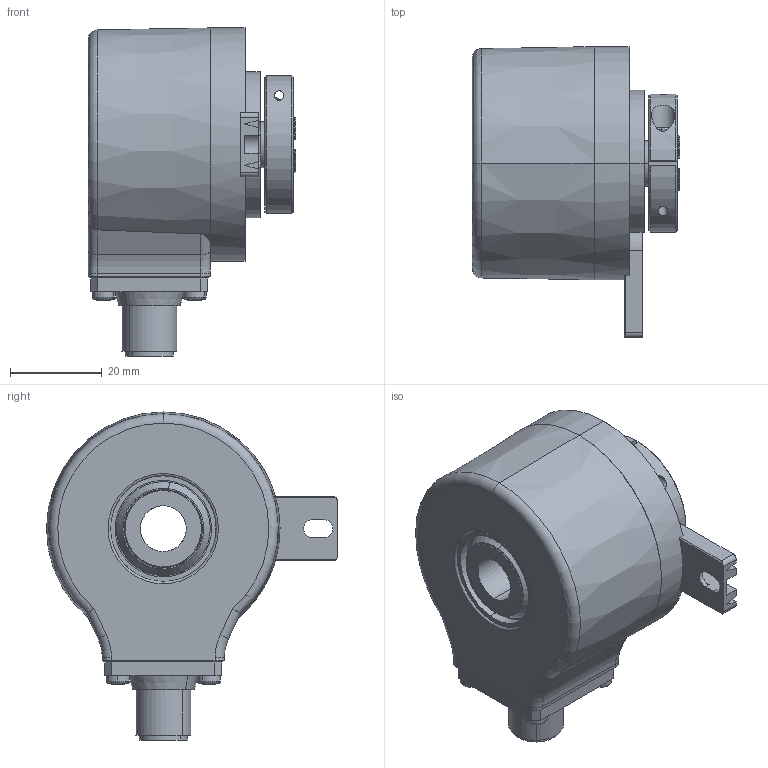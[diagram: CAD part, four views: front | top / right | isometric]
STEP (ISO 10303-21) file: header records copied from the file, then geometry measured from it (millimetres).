
FILE_DESCRIPTION (( 'STEP AP214' ), '1' );
FILE_NAME ('5020.23X2.XXXX.STEP', '2011-01-05T09:55:41', ( 'admin' ), ( 'Fritz Kübler GmbH' ), 'SwSTEP 2.0', 'SolidWorks 2009', '' );
FILE_SCHEMA (( 'AUTOMOTIVE_DESIGN' ));
Length unit declared in the file: millimetre
Products named in the file (1): 5020.23X2.XXXX
Bounding box: 45.1 x 63.3 x 71.4 mm (x, y, z)
Surface area: 17061.1 mm2 (no closed solid volume)
Topology: 0 solids, 24 shells, 301 faces, 883 edges, 585 vertices
Faces by surface type: plane 127, cylinder 101, cone 25, sphere 24, torus 20, bspline 4
Entity records: 13480 total; most frequent: CARTESIAN_POINT 2212, DIRECTION 1769, ORIENTED_EDGE 1502, EDGE_CURVE 851, AXIS2_PLACEMENT_3D 680, VERTEX_POINT 569, VECTOR 409, LINE 409
